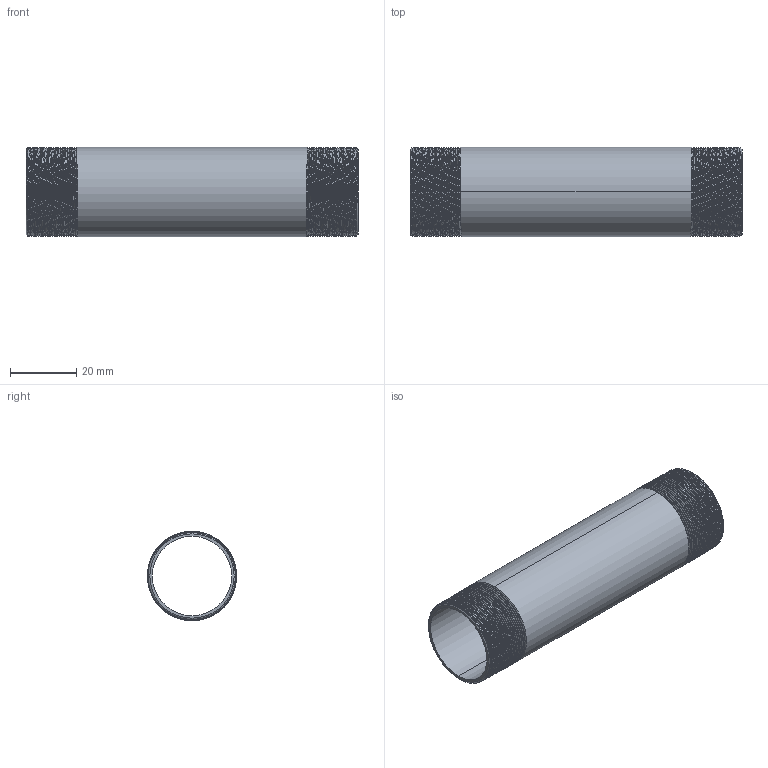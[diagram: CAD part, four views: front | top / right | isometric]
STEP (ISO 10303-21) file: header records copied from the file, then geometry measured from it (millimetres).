
FILE_DESCRIPTION (( 'STEP AP203' ), '1' );
FILE_NAME ('3D_R210_3-4x100_17185140.STEP', '2024-08-16T10:39:12', ( '' ), ( '' ), 'SwSTEP 2.0', 'SolidWorks 2024', '' );
FILE_SCHEMA (( 'CONFIG_CONTROL_DESIGN' ));
Length unit declared in the file: millimetre
Products named in the file (1): 3D_R210_3-4x100_17185140
Bounding box: 100 x 26.88 x 26.9 mm (x, y, z)
Volume: 11419.1 mm3; surface area: 17279.3 mm2
Topology: 1 solids, 1 shells, 106 faces, 304 edges, 200 vertices
Faces by surface type: cone 92, bspline 6, cylinder 4, plane 4
Entity records: 16481 total; most frequent: CARTESIAN_POINT 14027, ORIENTED_EDGE 608, DIRECTION 328, EDGE_CURVE 304, VERTEX_POINT 200, B_SPLINE_CURVE_WITH_KNOTS 182, AXIS2_PLACEMENT_3D 113, EDGE_LOOP 108
